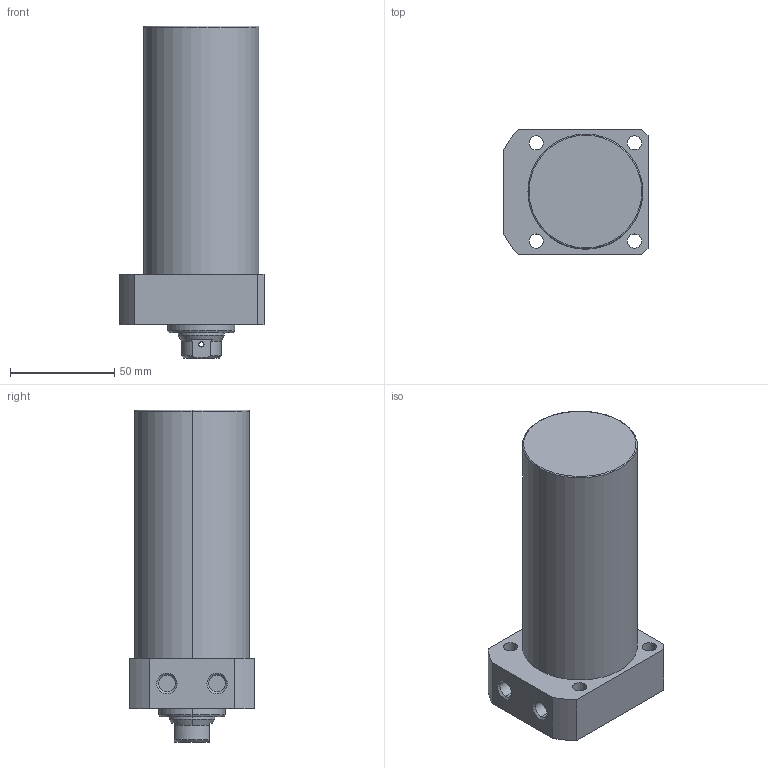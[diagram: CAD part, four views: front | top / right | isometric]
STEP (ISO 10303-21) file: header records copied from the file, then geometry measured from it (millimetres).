
FILE_DESCRIPTION (( 'STEP AP203' ), '1' );
FILE_NAME ('CLLR055-CB-090.STEP', '2017-05-16T03:45:55', ( '' ), ( '' ), 'SwSTEP 2.0', 'SolidWorks 2015', '' );
FILE_SCHEMA (( 'CONFIG_CONTROL_DESIGN' ));
Length unit declared in the file: millimetre
Products named in the file (1): CLLR055-CB-090
Bounding box: 69 x 60 x 159 mm (x, y, z)
Volume: 380309 mm3; surface area: 38897.2 mm2
Topology: 1 solids, 1 shells, 69 faces, 162 edges, 101 vertices
Faces by surface type: cylinder 33, plane 19, cone 15, torus 2
Entity records: 2175 total; most frequent: CARTESIAN_POINT 451, DIRECTION 368, ORIENTED_EDGE 320, EDGE_CURVE 160, AXIS2_PLACEMENT_3D 150, VERTEX_POINT 101, EDGE_LOOP 89, CIRCLE 80
